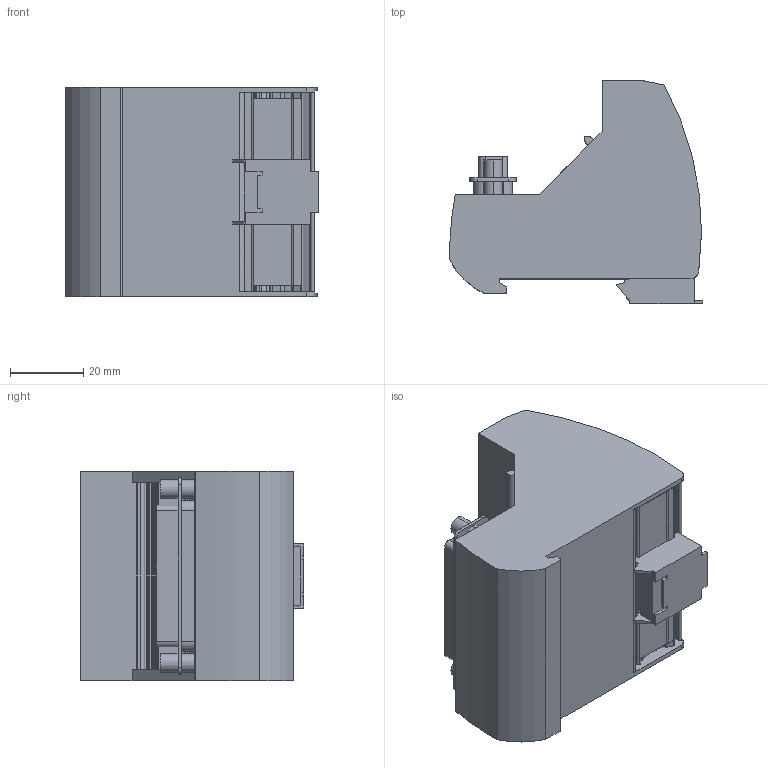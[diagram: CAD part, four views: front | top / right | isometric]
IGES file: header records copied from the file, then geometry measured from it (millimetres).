
Start section:  PTC IGES file: cu_25pin_fdsub_dinrail.igs
Global section: file name: cu_25pin_fdsub_dinrail.igs; native system: Creo Parametric by Parametric Technology Corporation; preprocessor: 2014000; author: dkendric; organization: Unknown; date: 20150520.172952; units: inch
Bounding box: 69.05 x 60.97 x 57.1 mm (x, y, z)
Surface area: 29875.6 mm2 (no closed solid volume)
Topology: 0 solids, 0 shells, 846 faces, 4670 edges, 4670 vertices
Faces by surface type: bspline 719, revolution 126, extrusion 1
